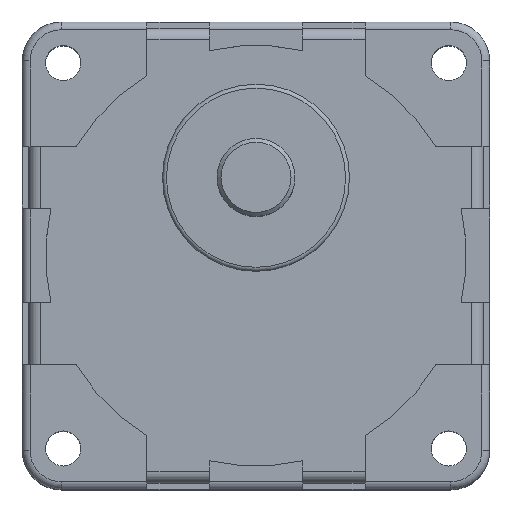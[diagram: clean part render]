
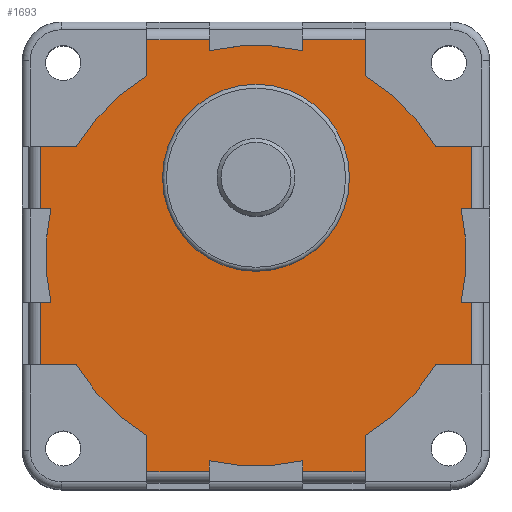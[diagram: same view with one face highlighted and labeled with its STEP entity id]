
A CAD part, top view. The second image highlights one B-rep face of the part: STEP entity #1693.
In plain terms, the highlighted planar face has unit normal (0, 0, 1).
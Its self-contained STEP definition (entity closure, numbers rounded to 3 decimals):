
#25=LINE('',#2548,#188);
#29=LINE('',#2560,#192);
#31=LINE('',#2566,#194);
#32=LINE('',#2570,#195);
#33=LINE('',#2572,#196);
#34=LINE('',#2574,#197);
#35=LINE('',#2578,#198);
#36=LINE('',#2580,#199);
#37=LINE('',#2582,#200);
#38=LINE('',#2586,#201);
#39=LINE('',#2588,#202);
#40=LINE('',#2590,#203);
#41=LINE('',#2594,#204);
#42=LINE('',#2596,#205);
#43=LINE('',#2598,#206);
#44=LINE('',#2602,#207);
#45=LINE('',#2604,#208);
#46=LINE('',#2606,#209);
#47=LINE('',#2610,#210);
#48=LINE('',#2612,#211);
#49=LINE('',#2614,#212);
#50=LINE('',#2617,#213);
#51=LINE('',#2619,#214);
#52=LINE('',#2622,#215);
#188=VECTOR('',#2020,8.);
#192=VECTOR('',#2030,8.);
#194=VECTOR('',#2036,4.613);
#195=VECTOR('',#2039,4.613);
#196=VECTOR('',#2040,8.);
#197=VECTOR('',#2041,1.375);
#198=VECTOR('',#2044,1.375);
#199=VECTOR('',#2045,8.);
#200=VECTOR('',#2046,4.613);
#201=VECTOR('',#2049,4.613);
#202=VECTOR('',#2050,8.);
#203=VECTOR('',#2051,1.375);
#204=VECTOR('',#2054,1.375);
#205=VECTOR('',#2055,8.);
#206=VECTOR('',#2056,4.613);
#207=VECTOR('',#2059,4.613);
#208=VECTOR('',#2060,8.);
#209=VECTOR('',#2061,1.375);
#210=VECTOR('',#2064,1.375);
#211=VECTOR('',#2065,8.);
#212=VECTOR('',#2066,4.613);
#213=VECTOR('',#2069,4.613);
#214=VECTOR('',#2070,1.375);
#215=VECTOR('',#2073,1.375);
#350=PLANE('',#1810);
#445=FACE_BOUND('',#577,.T.);
#469=FACE_OUTER_BOUND('',#576,.T.);
#576=EDGE_LOOP('',(#1218,#1219,#1220,#1221,#1222,#1223,#1224,#1225,#1226,
#1227,#1228,#1229,#1230,#1231,#1232,#1233,#1234,#1235,#1236,#1237,#1238,
#1239,#1240,#1241,#1242,#1243,#1244,#1245,#1246,#1247,#1248,#1249));
#577=EDGE_LOOP('',(#1250));
#695=CIRCLE('',#1811,27.);
#696=CIRCLE('',#1812,27.);
#697=CIRCLE('',#1813,27.);
#698=CIRCLE('',#1814,27.);
#699=CIRCLE('',#1815,27.);
#700=CIRCLE('',#1816,27.);
#701=CIRCLE('',#1817,27.);
#702=CIRCLE('',#1818,27.);
#703=CIRCLE('',#1819,12.);
#781=VERTEX_POINT('',#2541);
#784=VERTEX_POINT('',#2546);
#788=VERTEX_POINT('',#2557);
#789=VERTEX_POINT('',#2559);
#791=VERTEX_POINT('',#2565);
#792=VERTEX_POINT('',#2567);
#793=VERTEX_POINT('',#2569);
#794=VERTEX_POINT('',#2571);
#795=VERTEX_POINT('',#2573);
#796=VERTEX_POINT('',#2575);
#797=VERTEX_POINT('',#2577);
#798=VERTEX_POINT('',#2579);
#799=VERTEX_POINT('',#2581);
#800=VERTEX_POINT('',#2583);
#801=VERTEX_POINT('',#2585);
#802=VERTEX_POINT('',#2587);
#803=VERTEX_POINT('',#2589);
#804=VERTEX_POINT('',#2591);
#805=VERTEX_POINT('',#2593);
#806=VERTEX_POINT('',#2595);
#807=VERTEX_POINT('',#2597);
#808=VERTEX_POINT('',#2599);
#809=VERTEX_POINT('',#2601);
#810=VERTEX_POINT('',#2603);
#811=VERTEX_POINT('',#2605);
#812=VERTEX_POINT('',#2607);
#813=VERTEX_POINT('',#2609);
#814=VERTEX_POINT('',#2611);
#815=VERTEX_POINT('',#2613);
#816=VERTEX_POINT('',#2615);
#817=VERTEX_POINT('',#2618);
#818=VERTEX_POINT('',#2620);
#819=VERTEX_POINT('',#2623);
#954=EDGE_CURVE('',#784,#781,#25,.T.);
#959=EDGE_CURVE('',#788,#789,#29,.T.);
#962=EDGE_CURVE('',#784,#791,#31,.T.);
#963=EDGE_CURVE('',#792,#791,#695,.T.);
#964=EDGE_CURVE('',#793,#792,#32,.T.);
#965=EDGE_CURVE('',#794,#793,#33,.T.);
#966=EDGE_CURVE('',#795,#794,#34,.T.);
#967=EDGE_CURVE('',#796,#795,#696,.T.);
#968=EDGE_CURVE('',#796,#797,#35,.T.);
#969=EDGE_CURVE('',#798,#797,#36,.T.);
#970=EDGE_CURVE('',#798,#799,#37,.T.);
#971=EDGE_CURVE('',#800,#799,#697,.T.);
#972=EDGE_CURVE('',#801,#800,#38,.T.);
#973=EDGE_CURVE('',#802,#801,#39,.T.);
#974=EDGE_CURVE('',#803,#802,#40,.T.);
#975=EDGE_CURVE('',#804,#803,#698,.T.);
#976=EDGE_CURVE('',#804,#805,#41,.T.);
#977=EDGE_CURVE('',#806,#805,#42,.T.);
#978=EDGE_CURVE('',#806,#807,#43,.T.);
#979=EDGE_CURVE('',#808,#807,#699,.T.);
#980=EDGE_CURVE('',#809,#808,#44,.T.);
#981=EDGE_CURVE('',#810,#809,#45,.T.);
#982=EDGE_CURVE('',#811,#810,#46,.T.);
#983=EDGE_CURVE('',#812,#811,#700,.T.);
#984=EDGE_CURVE('',#812,#813,#47,.T.);
#985=EDGE_CURVE('',#814,#813,#48,.T.);
#986=EDGE_CURVE('',#814,#815,#49,.T.);
#987=EDGE_CURVE('',#816,#815,#701,.T.);
#988=EDGE_CURVE('',#789,#816,#50,.T.);
#989=EDGE_CURVE('',#817,#788,#51,.T.);
#990=EDGE_CURVE('',#818,#817,#702,.T.);
#991=EDGE_CURVE('',#818,#781,#52,.T.);
#992=EDGE_CURVE('',#819,#819,#703,.T.);
#1218=ORIENTED_EDGE('',*,*,#954,.F.);
#1219=ORIENTED_EDGE('',*,*,#962,.T.);
#1220=ORIENTED_EDGE('',*,*,#963,.F.);
#1221=ORIENTED_EDGE('',*,*,#964,.F.);
#1222=ORIENTED_EDGE('',*,*,#965,.F.);
#1223=ORIENTED_EDGE('',*,*,#966,.F.);
#1224=ORIENTED_EDGE('',*,*,#967,.F.);
#1225=ORIENTED_EDGE('',*,*,#968,.T.);
#1226=ORIENTED_EDGE('',*,*,#969,.F.);
#1227=ORIENTED_EDGE('',*,*,#970,.T.);
#1228=ORIENTED_EDGE('',*,*,#971,.F.);
#1229=ORIENTED_EDGE('',*,*,#972,.F.);
#1230=ORIENTED_EDGE('',*,*,#973,.F.);
#1231=ORIENTED_EDGE('',*,*,#974,.F.);
#1232=ORIENTED_EDGE('',*,*,#975,.F.);
#1233=ORIENTED_EDGE('',*,*,#976,.T.);
#1234=ORIENTED_EDGE('',*,*,#977,.F.);
#1235=ORIENTED_EDGE('',*,*,#978,.T.);
#1236=ORIENTED_EDGE('',*,*,#979,.F.);
#1237=ORIENTED_EDGE('',*,*,#980,.F.);
#1238=ORIENTED_EDGE('',*,*,#981,.F.);
#1239=ORIENTED_EDGE('',*,*,#982,.F.);
#1240=ORIENTED_EDGE('',*,*,#983,.F.);
#1241=ORIENTED_EDGE('',*,*,#984,.T.);
#1242=ORIENTED_EDGE('',*,*,#985,.F.);
#1243=ORIENTED_EDGE('',*,*,#986,.T.);
#1244=ORIENTED_EDGE('',*,*,#987,.F.);
#1245=ORIENTED_EDGE('',*,*,#988,.F.);
#1246=ORIENTED_EDGE('',*,*,#959,.F.);
#1247=ORIENTED_EDGE('',*,*,#989,.F.);
#1248=ORIENTED_EDGE('',*,*,#990,.F.);
#1249=ORIENTED_EDGE('',*,*,#991,.T.);
#1250=ORIENTED_EDGE('',*,*,#992,.T.);
#1693=ADVANCED_FACE('',(#469,#445),#350,.T.);
#1810=AXIS2_PLACEMENT_3D('',#2564,#2034,#2035);
#1811=AXIS2_PLACEMENT_3D('',#2568,#2037,#2038);
#1812=AXIS2_PLACEMENT_3D('',#2576,#2042,#2043);
#1813=AXIS2_PLACEMENT_3D('',#2584,#2047,#2048);
#1814=AXIS2_PLACEMENT_3D('',#2592,#2052,#2053);
#1815=AXIS2_PLACEMENT_3D('',#2600,#2057,#2058);
#1816=AXIS2_PLACEMENT_3D('',#2608,#2062,#2063);
#1817=AXIS2_PLACEMENT_3D('',#2616,#2067,#2068);
#1818=AXIS2_PLACEMENT_3D('',#2621,#2071,#2072);
#1819=AXIS2_PLACEMENT_3D('',#2624,#2074,#2075);
#2020=DIRECTION('',(0.,-1.,0.));
#2030=DIRECTION('',(0.,-1.,0.));
#2034=DIRECTION('center_axis',(0.,0.,1.));
#2035=DIRECTION('ref_axis',(1.,0.,0.));
#2036=DIRECTION('',(-1.,0.,0.));
#2037=DIRECTION('center_axis',(0.,0.,-1.));
#2038=DIRECTION('ref_axis',(-1.,0.,0.));
#2039=DIRECTION('',(0.,-1.,0.));
#2040=DIRECTION('',(1.,0.,0.));
#2041=DIRECTION('',(0.,1.,0.));
#2042=DIRECTION('center_axis',(0.,0.,-1.));
#2043=DIRECTION('ref_axis',(-1.,0.,0.));
#2044=DIRECTION('',(0.,1.,0.));
#2045=DIRECTION('',(1.,0.,0.));
#2046=DIRECTION('',(0.,-1.,0.));
#2047=DIRECTION('center_axis',(0.,0.,-1.));
#2048=DIRECTION('ref_axis',(-1.,0.,0.));
#2049=DIRECTION('',(1.,0.,0.));
#2050=DIRECTION('',(0.,1.,0.));
#2051=DIRECTION('',(-1.,0.,0.));
#2052=DIRECTION('center_axis',(0.,0.,-1.));
#2053=DIRECTION('ref_axis',(-1.,0.,0.));
#2054=DIRECTION('',(-1.,0.,0.));
#2055=DIRECTION('',(0.,1.,0.));
#2056=DIRECTION('',(1.,0.,0.));
#2057=DIRECTION('center_axis',(0.,0.,-1.));
#2058=DIRECTION('ref_axis',(-1.,0.,0.));
#2059=DIRECTION('',(0.,1.,0.));
#2060=DIRECTION('',(-1.,0.,0.));
#2061=DIRECTION('',(0.,-1.,0.));
#2062=DIRECTION('center_axis',(0.,0.,-1.));
#2063=DIRECTION('ref_axis',(-1.,0.,0.));
#2064=DIRECTION('',(0.,-1.,0.));
#2065=DIRECTION('',(-1.,0.,0.));
#2066=DIRECTION('',(0.,1.,0.));
#2067=DIRECTION('center_axis',(0.,0.,-1.));
#2068=DIRECTION('ref_axis',(-1.,0.,0.));
#2069=DIRECTION('',(-1.,0.,0.));
#2070=DIRECTION('',(1.,0.,0.));
#2071=DIRECTION('center_axis',(0.,0.,-1.));
#2072=DIRECTION('ref_axis',(-1.,0.,0.));
#2073=DIRECTION('',(1.,0.,0.));
#2074=DIRECTION('center_axis',(0.,0.,-1.));
#2075=DIRECTION('ref_axis',(1.,0.,0.));
#2541=CARTESIAN_POINT('',(27.7,6.,42.2));
#2546=CARTESIAN_POINT('',(27.7,14.,42.2));
#2548=CARTESIAN_POINT('',(27.7,7.,42.2));
#2557=CARTESIAN_POINT('',(27.7,-6.,42.2));
#2559=CARTESIAN_POINT('',(27.7,-14.,42.2));
#2560=CARTESIAN_POINT('',(27.7,-7.,42.2));
#2564=CARTESIAN_POINT('Origin',(0.,0.,42.2));
#2565=CARTESIAN_POINT('',(23.087,14.,42.2));
#2566=CARTESIAN_POINT('',(23.087,14.,42.2));
#2567=CARTESIAN_POINT('',(14.,23.087,42.2));
#2568=CARTESIAN_POINT('Origin',(0.,0.,42.2));
#2569=CARTESIAN_POINT('',(14.,27.7,42.2));
#2570=CARTESIAN_POINT('',(14.,23.087,42.2));
#2571=CARTESIAN_POINT('',(6.,27.7,42.2));
#2572=CARTESIAN_POINT('',(7.,27.7,42.2));
#2573=CARTESIAN_POINT('',(6.,26.325,42.2));
#2574=CARTESIAN_POINT('',(6.,30.,42.2));
#2575=CARTESIAN_POINT('',(-6.,26.325,42.2));
#2576=CARTESIAN_POINT('Origin',(0.,0.,42.2));
#2577=CARTESIAN_POINT('',(-6.,27.7,42.2));
#2578=CARTESIAN_POINT('',(-6.,30.,42.2));
#2579=CARTESIAN_POINT('',(-14.,27.7,42.2));
#2580=CARTESIAN_POINT('',(-7.,27.7,42.2));
#2581=CARTESIAN_POINT('',(-14.,23.087,42.2));
#2582=CARTESIAN_POINT('',(-14.,23.087,42.2));
#2583=CARTESIAN_POINT('',(-23.087,14.,42.2));
#2584=CARTESIAN_POINT('Origin',(0.,0.,42.2));
#2585=CARTESIAN_POINT('',(-27.7,14.,42.2));
#2586=CARTESIAN_POINT('',(-23.087,14.,42.2));
#2587=CARTESIAN_POINT('',(-27.7,6.,42.2));
#2588=CARTESIAN_POINT('',(-27.7,7.,42.2));
#2589=CARTESIAN_POINT('',(-26.325,6.,42.2));
#2590=CARTESIAN_POINT('',(-30.,6.,42.2));
#2591=CARTESIAN_POINT('',(-26.325,-6.,42.2));
#2592=CARTESIAN_POINT('Origin',(0.,0.,42.2));
#2593=CARTESIAN_POINT('',(-27.7,-6.,42.2));
#2594=CARTESIAN_POINT('',(-30.,-6.,42.2));
#2595=CARTESIAN_POINT('',(-27.7,-14.,42.2));
#2596=CARTESIAN_POINT('',(-27.7,-7.,42.2));
#2597=CARTESIAN_POINT('',(-23.087,-14.,42.2));
#2598=CARTESIAN_POINT('',(-23.087,-14.,42.2));
#2599=CARTESIAN_POINT('',(-14.,-23.087,42.2));
#2600=CARTESIAN_POINT('Origin',(0.,0.,42.2));
#2601=CARTESIAN_POINT('',(-14.,-27.7,42.2));
#2602=CARTESIAN_POINT('',(-14.,-23.087,42.2));
#2603=CARTESIAN_POINT('',(-6.,-27.7,42.2));
#2604=CARTESIAN_POINT('',(-7.,-27.7,42.2));
#2605=CARTESIAN_POINT('',(-6.,-26.325,42.2));
#2606=CARTESIAN_POINT('',(-6.,-30.,42.2));
#2607=CARTESIAN_POINT('',(6.,-26.325,42.2));
#2608=CARTESIAN_POINT('Origin',(0.,0.,42.2));
#2609=CARTESIAN_POINT('',(6.,-27.7,42.2));
#2610=CARTESIAN_POINT('',(6.,-30.,42.2));
#2611=CARTESIAN_POINT('',(14.,-27.7,42.2));
#2612=CARTESIAN_POINT('',(7.,-27.7,42.2));
#2613=CARTESIAN_POINT('',(14.,-23.087,42.2));
#2614=CARTESIAN_POINT('',(14.,-23.087,42.2));
#2615=CARTESIAN_POINT('',(23.087,-14.,42.2));
#2616=CARTESIAN_POINT('Origin',(0.,0.,42.2));
#2617=CARTESIAN_POINT('',(23.087,-14.,42.2));
#2618=CARTESIAN_POINT('',(26.325,-6.,42.2));
#2619=CARTESIAN_POINT('',(30.,-6.,42.2));
#2620=CARTESIAN_POINT('',(26.325,6.,42.2));
#2621=CARTESIAN_POINT('Origin',(0.,0.,42.2));
#2622=CARTESIAN_POINT('',(30.,6.,42.2));
#2623=CARTESIAN_POINT('',(-12.,10.,42.2));
#2624=CARTESIAN_POINT('Origin',(0.,10.,42.2));
